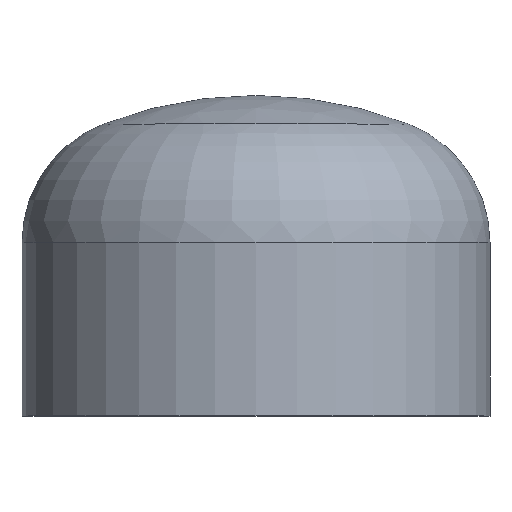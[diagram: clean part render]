
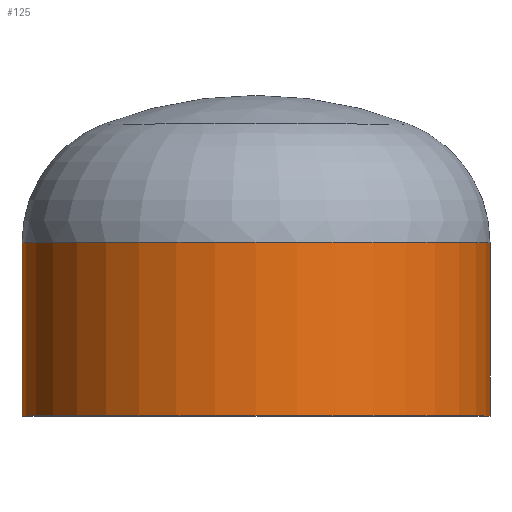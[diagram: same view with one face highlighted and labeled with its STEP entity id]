
A CAD part, top view. The second image highlights one B-rep face of the part: STEP entity #125.
In plain terms, the highlighted cylindrical face has radius 161.95 mm (diameter 323.9 mm), a partial arc.
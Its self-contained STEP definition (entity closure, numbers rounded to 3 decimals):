
#13 = LINE ( 'NONE', #281, #287 ) ;
#26 = ORIENTED_EDGE ( 'NONE', *, *, #115, .F. ) ;
#63 = AXIS2_PLACEMENT_3D ( 'NONE', #317, #332, #360 ) ;
#74 = ORIENTED_EDGE ( 'NONE', *, *, #328, .F. ) ;
#75 = AXIS2_PLACEMENT_3D ( 'NONE', #266, #377, #378 ) ;
#76 = AXIS2_PLACEMENT_3D ( 'NONE', #204, #358, #356 ) ;
#92 = VERTEX_POINT ( 'NONE', #241 ) ;
#100 = VERTEX_POINT ( 'NONE', #349 ) ;
#101 = EDGE_CURVE ( 'NONE', #100, #116, #277, .T. ) ;
#105 = ORIENTED_EDGE ( 'NONE', *, *, #307, .T. ) ;
#115 = EDGE_CURVE ( 'NONE', #92, #126, #222, .T. ) ;
#116 = VERTEX_POINT ( 'NONE', #220 ) ;
#118 = ORIENTED_EDGE ( 'NONE', *, *, #101, .T. ) ;
#122 = DIRECTION ( 'NONE',  ( 0., -1., 0. ) ) ;
#125 = ADVANCED_FACE ( 'NONE', ( #337 ), #150, .T. ) ;
#126 = VERTEX_POINT ( 'NONE', #298 ) ;
#150 = CYLINDRICAL_SURFACE ( 'NONE', #63, 161.95 ) ;
#170 = CARTESIAN_POINT ( 'NONE',  ( -161.95, 0., 0. ) ) ;
#193 = LINE ( 'NONE', #170, #363 ) ;
#204 = CARTESIAN_POINT ( 'NONE',  ( 0., 120., 0. ) ) ;
#220 = CARTESIAN_POINT ( 'NONE',  ( -161.95, 120., 0. ) ) ;
#222 = CIRCLE ( 'NONE', #75, 161.95 ) ;
#240 = EDGE_LOOP ( 'NONE', ( #118, #105, #26, #74 ) ) ;
#241 = CARTESIAN_POINT ( 'NONE',  ( 161.95, 0., 0. ) ) ;
#266 = CARTESIAN_POINT ( 'NONE',  ( 0., 0., 0. ) ) ;
#277 = CIRCLE ( 'NONE', #76, 161.95 ) ;
#281 = CARTESIAN_POINT ( 'NONE',  ( 161.95, 0., 0. ) ) ;
#287 = VECTOR ( 'NONE', #333, 1000. ) ;
#298 = CARTESIAN_POINT ( 'NONE',  ( -161.95, 0., 0. ) ) ;
#307 = EDGE_CURVE ( 'NONE', #116, #126, #193, .T. ) ;
#317 = CARTESIAN_POINT ( 'NONE',  ( 0., 0., 0. ) ) ;
#328 = EDGE_CURVE ( 'NONE', #100, #92, #13, .T. ) ;
#332 = DIRECTION ( 'NONE',  ( 0., -1., 0. ) ) ;
#333 = DIRECTION ( 'NONE',  ( 0., -1., 0. ) ) ;
#337 = FACE_OUTER_BOUND ( 'NONE', #240, .T. ) ;
#349 = CARTESIAN_POINT ( 'NONE',  ( 161.95, 120., 0. ) ) ;
#356 = DIRECTION ( 'NONE',  ( 1., 0., 0. ) ) ;
#358 = DIRECTION ( 'NONE',  ( 0., -1., 0. ) ) ;
#360 = DIRECTION ( 'NONE',  ( 1., 0., 0. ) ) ;
#363 = VECTOR ( 'NONE', #122, 1000. ) ;
#377 = DIRECTION ( 'NONE',  ( 0., -1., 0. ) ) ;
#378 = DIRECTION ( 'NONE',  ( 1., 0., 0. ) ) ;
